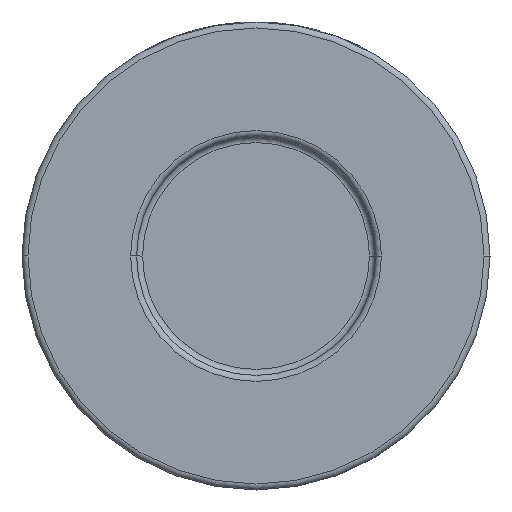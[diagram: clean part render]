
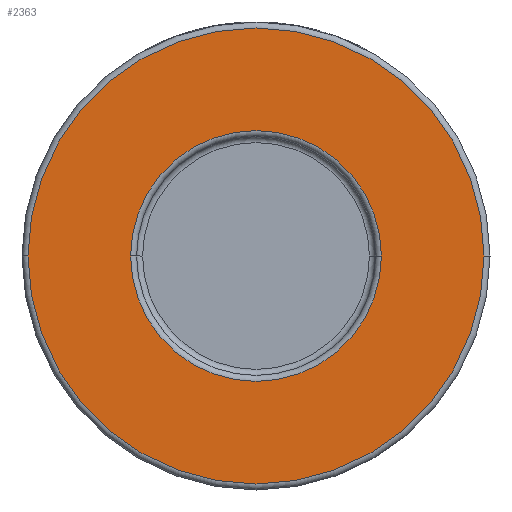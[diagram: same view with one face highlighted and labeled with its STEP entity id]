
A CAD part, front view. The second image highlights one B-rep face of the part: STEP entity #2363.
In plain terms, the highlighted planar face has unit normal (0, -1, 0).
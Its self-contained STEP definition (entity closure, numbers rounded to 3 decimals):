
#42 = CIRCLE ( 'NONE', #1070, 20.9 ) ;
#126 = AXIS2_PLACEMENT_3D ( 'NONE', #2154, #4543, #1393 ) ;
#240 = VERTEX_POINT ( 'NONE', #2184 ) ;
#667 = CARTESIAN_POINT ( 'NONE',  ( 0., -26., 0. ) ) ;
#802 = AXIS2_PLACEMENT_3D ( 'NONE', #2602, #3312, #3657 ) ;
#873 = EDGE_LOOP ( 'NONE', ( #3769, #1692 ) ) ;
#1020 = EDGE_CURVE ( 'NONE', #4227, #3445, #2102, .T. ) ;
#1023 = CIRCLE ( 'NONE', #1315, 38. ) ;
#1070 = AXIS2_PLACEMENT_3D ( 'NONE', #4191, #2486, #1450 ) ;
#1106 = EDGE_CURVE ( 'NONE', #1445, #240, #42, .T. ) ;
#1160 = CIRCLE ( 'NONE', #126, 20.9 ) ;
#1196 = PLANE ( 'NONE',  #802 ) ;
#1315 = AXIS2_PLACEMENT_3D ( 'NONE', #2454, #3810, #2156 ) ;
#1393 = DIRECTION ( 'NONE',  ( 1., 0., 0. ) ) ;
#1417 = EDGE_CURVE ( 'NONE', #240, #1445, #1160, .T. ) ;
#1445 = VERTEX_POINT ( 'NONE', #1532 ) ;
#1450 = DIRECTION ( 'NONE',  ( 1., 0., 0. ) ) ;
#1532 = CARTESIAN_POINT ( 'NONE',  ( 20.9, -26., 0. ) ) ;
#1689 = ORIENTED_EDGE ( 'NONE', *, *, #1417, .T. ) ;
#1692 = ORIENTED_EDGE ( 'NONE', *, *, #1020, .T. ) ;
#2102 = CIRCLE ( 'NONE', #3784, 38. ) ;
#2154 = CARTESIAN_POINT ( 'NONE',  ( 0., -26., 0. ) ) ;
#2156 = DIRECTION ( 'NONE',  ( 1., 0., 0. ) ) ;
#2184 = CARTESIAN_POINT ( 'NONE',  ( -20.9, -26., 0. ) ) ;
#2251 = FACE_OUTER_BOUND ( 'NONE', #873, .T. ) ;
#2303 = CARTESIAN_POINT ( 'NONE',  ( 38., -26., 0. ) ) ;
#2363 = ADVANCED_FACE ( 'NONE', ( #2946, #2251 ), #1196, .T. ) ;
#2454 = CARTESIAN_POINT ( 'NONE',  ( 0., -26., 0. ) ) ;
#2486 = DIRECTION ( 'NONE',  ( 0., 1., 0. ) ) ;
#2584 = EDGE_CURVE ( 'NONE', #3445, #4227, #1023, .T. ) ;
#2602 = CARTESIAN_POINT ( 'NONE',  ( 39., -26., 0. ) ) ;
#2946 = FACE_BOUND ( 'NONE', #3335, .T. ) ;
#3078 = DIRECTION ( 'NONE',  ( 1., 0., 0. ) ) ;
#3312 = DIRECTION ( 'NONE',  ( 0., -1., 0. ) ) ;
#3335 = EDGE_LOOP ( 'NONE', ( #3679, #1689 ) ) ;
#3401 = DIRECTION ( 'NONE',  ( 0., -1., 0. ) ) ;
#3445 = VERTEX_POINT ( 'NONE', #2303 ) ;
#3657 = DIRECTION ( 'NONE',  ( 1., 0., 0. ) ) ;
#3679 = ORIENTED_EDGE ( 'NONE', *, *, #1106, .T. ) ;
#3769 = ORIENTED_EDGE ( 'NONE', *, *, #2584, .T. ) ;
#3784 = AXIS2_PLACEMENT_3D ( 'NONE', #667, #3401, #3078 ) ;
#3810 = DIRECTION ( 'NONE',  ( 0., -1., 0. ) ) ;
#4191 = CARTESIAN_POINT ( 'NONE',  ( 0., -26., 0. ) ) ;
#4227 = VERTEX_POINT ( 'NONE', #4353 ) ;
#4353 = CARTESIAN_POINT ( 'NONE',  ( -38., -26., 0. ) ) ;
#4543 = DIRECTION ( 'NONE',  ( 0., 1., 0. ) ) ;
